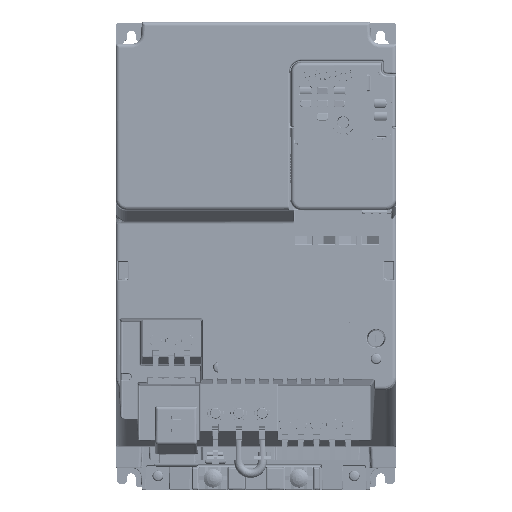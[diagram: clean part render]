
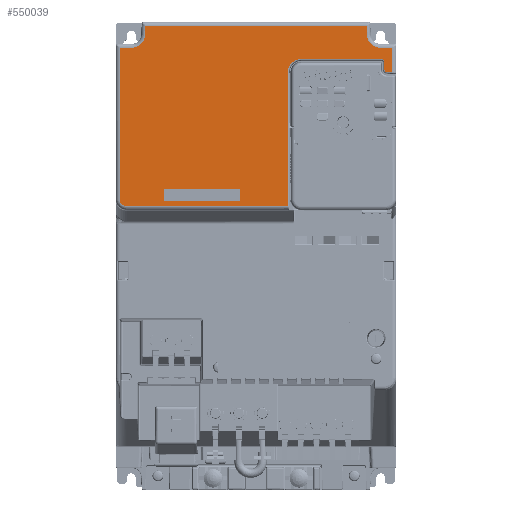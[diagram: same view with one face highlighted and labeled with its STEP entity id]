
A CAD part, top view. The second image highlights one B-rep face of the part: STEP entity #550039.
In plain terms, the highlighted planar face has unit normal (0, 0, 1).
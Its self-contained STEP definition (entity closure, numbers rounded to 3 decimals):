
#440093=CARTESIAN_POINT('',(-82.997,36.394,
129.5));
#440094=DIRECTION('',(0.,0.,
-1.));
#440095=DIRECTION('',(-0.001,-1.,0.));
#440096=AXIS2_PLACEMENT_3D('',#440093,#440094,#440095);
#440098=CARTESIAN_POINT('',(-79.694,142.,129.5));
#440099=DIRECTION('',(0.,0.,1.));
#440100=DIRECTION('',(0.,-1.,0.));
#440101=AXIS2_PLACEMENT_3D('',#440098,#440099,#440100);
#440103=DIRECTION('',(0.052,0.999,0.));
#440104=VECTOR('',#440103,5.953);
#440105=CARTESIAN_POINT('',(-71.205,141.555,129.5));
#440106=LINE('',#440105,#440104);
#440107=DIRECTION('',(0.052,-0.999,
0.));
#440108=VECTOR('',#440107,5.953);
#440109=CARTESIAN_POINT('',(70.894,147.5,129.5));
#440110=LINE('',#440109,#440108);
#440111=CARTESIAN_POINT('',(79.694,142.,129.5));
#440112=DIRECTION('',(0.,0.,1.));
#440113=DIRECTION('',(-0.999,-0.052,0.));
#440114=AXIS2_PLACEMENT_3D('',#440111,#440112,#440113);
#440116=DIRECTION('',(-0.999,0.052,0.));
#440117=VECTOR('',#440116,3.587);
#440118=CARTESIAN_POINT('',(87.5,117.748,
129.5));
#440119=LINE('',#440118,#440117);
#440120=CARTESIAN_POINT('',(84.,119.5,129.5));
#440121=DIRECTION('',(0.,0.,-1.));
#440122=DIRECTION('',(-0.052,-0.999,0.));
#440123=AXIS2_PLACEMENT_3D('',#440120,#440121,#440122);
#440125=CARTESIAN_POINT('',(82.433,124.184,
129.5));
#440126=CARTESIAN_POINT('',(82.433,124.462,
129.5));
#440127=CARTESIAN_POINT('',(82.325,124.972,
129.5));
#440128=CARTESIAN_POINT('',(81.885,125.635,
129.5));
#440129=CARTESIAN_POINT('',(81.222,126.075,
129.5));
#440130=CARTESIAN_POINT('',(80.712,126.183,
129.5));
#440131=CARTESIAN_POINT('',(80.434,126.183,
129.5));
#440133=CARTESIAN_POINT('',(29.,117.5,129.5));
#440134=DIRECTION('',(0.,0.,1.));
#440135=DIRECTION('',(0.,1.,0.));
#440136=AXIS2_PLACEMENT_3D('',#440133,#440134,#440135);
#440138=DIRECTION('',(0.,1.,0.));
#440139=VECTOR('',#440138,85.608);
#440140=CARTESIAN_POINT('',(20.317,31.892,
129.5));
#440141=LINE('',#440140,#440139);
#440165=DIRECTION('',(1.,0.,0.));
#440166=VECTOR('',#440165,51.434);
#440167=CARTESIAN_POINT('',(29.,126.183,129.5));
#440168=LINE('',#440167,#440166);
#440328=DIRECTION('',(0.,-1.,0.));
#440329=VECTOR('',#440328,4.684);
#440330=CARTESIAN_POINT('',(82.433,124.184,
129.5));
#440331=LINE('',#440330,#440329);
#440346=DIRECTION('',(0.,1.,0.));
#440347=VECTOR('',#440346,15.752);
#440348=CARTESIAN_POINT('',(87.5,117.748,
129.5));
#440349=LINE('',#440348,#440347);
#440376=DIRECTION('',(-1.,0.,0.));
#440377=VECTOR('',#440376,7.806);
#440378=CARTESIAN_POINT('',(87.5,133.5,129.5));
#440379=LINE('',#440378,#440377);
#440437=DIRECTION('',(-1.,0.,0.));
#440438=VECTOR('',#440437,141.788);
#440439=CARTESIAN_POINT('',(70.894,147.5,129.5));
#440440=LINE('',#440439,#440438);
#440478=DIRECTION('',(-1.,0.,0.));
#440479=VECTOR('',#440478,7.806);
#440480=CARTESIAN_POINT('',(-79.694,133.5,129.5));
#440481=LINE('',#440480,#440479);
#440504=DIRECTION('',(0.,-1.,0.));
#440505=VECTOR('',#440504,97.101);
#440506=CARTESIAN_POINT('',(-87.5,133.5,129.5));
#440507=LINE('',#440506,#440505);
#466512=DIRECTION('',(1.,0.,0.));
#466513=VECTOR('',#466512,103.317);
#466514=CARTESIAN_POINT('',(-83.001,31.892,
129.5));
#466515=LINE('',#466514,#466513);
#510696=CARTESIAN_POINT('',(87.5,117.748,129.5));
#510697=VERTEX_POINT('',#510696);
#510698=CARTESIAN_POINT('',(83.918,117.936,129.5));
#510699=VERTEX_POINT('',#510698);
#510702=CARTESIAN_POINT('',(82.433,119.5,129.5));
#510703=VERTEX_POINT('',#510702);
#510706=CARTESIAN_POINT('',(82.433,124.184,
129.5));
#510707=VERTEX_POINT('',#510706);
#510708=CARTESIAN_POINT('',(20.317,31.892,
129.5));
#510709=CARTESIAN_POINT('',(20.317,117.5,129.5));
#510710=VERTEX_POINT('',#510708);
#510711=VERTEX_POINT('',#510709);
#510712=CARTESIAN_POINT('',(-83.001,31.892,
129.5));
#510713=VERTEX_POINT('',#510712);
#510714=CARTESIAN_POINT('',(-87.5,36.4,
129.5));
#510715=VERTEX_POINT('',#510714);
#510716=CARTESIAN_POINT('',(-87.5,133.5,129.5));
#510717=VERTEX_POINT('',#510716);
#510718=CARTESIAN_POINT('',(-79.694,133.5,129.5));
#510719=VERTEX_POINT('',#510718);
#510720=CARTESIAN_POINT('',(-71.205,141.555,129.5));
#510721=VERTEX_POINT('',#510720);
#510722=CARTESIAN_POINT('',(-70.894,147.5,129.5));
#510723=VERTEX_POINT('',#510722);
#510724=CARTESIAN_POINT('',(70.894,147.5,129.5));
#510725=VERTEX_POINT('',#510724);
#510726=CARTESIAN_POINT('',(71.205,141.555,129.5));
#510727=VERTEX_POINT('',#510726);
#510728=CARTESIAN_POINT('',(79.694,133.5,129.5));
#510729=VERTEX_POINT('',#510728);
#510730=CARTESIAN_POINT('',(87.5,133.5,129.5));
#510731=VERTEX_POINT('',#510730);
#510732=VERTEX_POINT('',#440131);
#510733=CARTESIAN_POINT('',(29.,126.183,129.5));
#510734=VERTEX_POINT('',#510733);
#549997=CARTESIAN_POINT('',(0.,0.,129.5));
#549998=DIRECTION('',(0.,0.,1.));
#549999=DIRECTION('',(1.,0.,0.));
#550000=AXIS2_PLACEMENT_3D('',#549997,#549998,#549999);
#550001=PLANE('',#550000);
#550003=ORIENTED_EDGE('',*,*,#550002,.F.);
#550005=ORIENTED_EDGE('',*,*,#550004,.F.);
#550006=ORIENTED_EDGE('',*,*,#549987,.T.);
#550008=ORIENTED_EDGE('',*,*,#550007,.F.);
#550010=ORIENTED_EDGE('',*,*,#550009,.F.);
#550012=ORIENTED_EDGE('',*,*,#550011,.T.);
#550014=ORIENTED_EDGE('',*,*,#550013,.T.);
#550016=ORIENTED_EDGE('',*,*,#550015,.F.);
#550018=ORIENTED_EDGE('',*,*,#550017,.T.);
#550020=ORIENTED_EDGE('',*,*,#550019,.T.);
#550022=ORIENTED_EDGE('',*,*,#550021,.F.);
#550024=ORIENTED_EDGE('',*,*,#550023,.F.);
#550026=ORIENTED_EDGE('',*,*,#550025,.T.);
#550028=ORIENTED_EDGE('',*,*,#550027,.T.);
#550030=ORIENTED_EDGE('',*,*,#550029,.F.);
#550032=ORIENTED_EDGE('',*,*,#550031,.T.);
#550034=ORIENTED_EDGE('',*,*,#550033,.F.);
#550036=ORIENTED_EDGE('',*,*,#550035,.T.);
#550037=EDGE_LOOP('',(#550003,#550005,#550006,#550008,#550010,#550012,#550014,
#550016,#550018,#550020,#550022,#550024,#550026,#550028,#550030,#550032,#550034,
#550036));
#550038=FACE_OUTER_BOUND('',#550037,.F.);
#550039=ADVANCED_FACE('',(#550038),#550001,.T.);
#440097=CIRCLE('',#440096,4.503);
#440102=CIRCLE('',#440101,8.5);
#440115=CIRCLE('',#440114,8.5);
#440124=CIRCLE('',#440123,1.567);
#440132=B_SPLINE_CURVE_WITH_KNOTS('',3,(#440125,#440126,#440127,#440128,#440129,
#440130,#440131),.UNSPECIFIED.,.F.,.F.,(4,1,1,1,4),(0.,0.25,0.5,0.75,
1.),.UNSPECIFIED.);
#440137=CIRCLE('',#440136,8.683);
#549987=EDGE_CURVE('',#510713,#510715,#440097,.T.);
#550002=EDGE_CURVE('',#510710,#510711,#440141,.T.);
#550004=EDGE_CURVE('',#510713,#510710,#466515,.T.);
#550007=EDGE_CURVE('',#510717,#510715,#440507,.T.);
#550009=EDGE_CURVE('',#510719,#510717,#440481,.T.);
#550011=EDGE_CURVE('',#510719,#510721,#440102,.T.);
#550013=EDGE_CURVE('',#510721,#510723,#440106,.T.);
#550015=EDGE_CURVE('',#510725,#510723,#440440,.T.);
#550017=EDGE_CURVE('',#510725,#510727,#440110,.T.);
#550019=EDGE_CURVE('',#510727,#510729,#440115,.T.);
#550021=EDGE_CURVE('',#510731,#510729,#440379,.T.);
#550023=EDGE_CURVE('',#510697,#510731,#440349,.T.);
#550025=EDGE_CURVE('',#510697,#510699,#440119,.T.);
#550027=EDGE_CURVE('',#510699,#510703,#440124,.T.);
#550029=EDGE_CURVE('',#510707,#510703,#440331,.T.);
#550031=EDGE_CURVE('',#510707,#510732,#440132,.T.);
#550033=EDGE_CURVE('',#510734,#510732,#440168,.T.);
#550035=EDGE_CURVE('',#510734,#510711,#440137,.T.);
